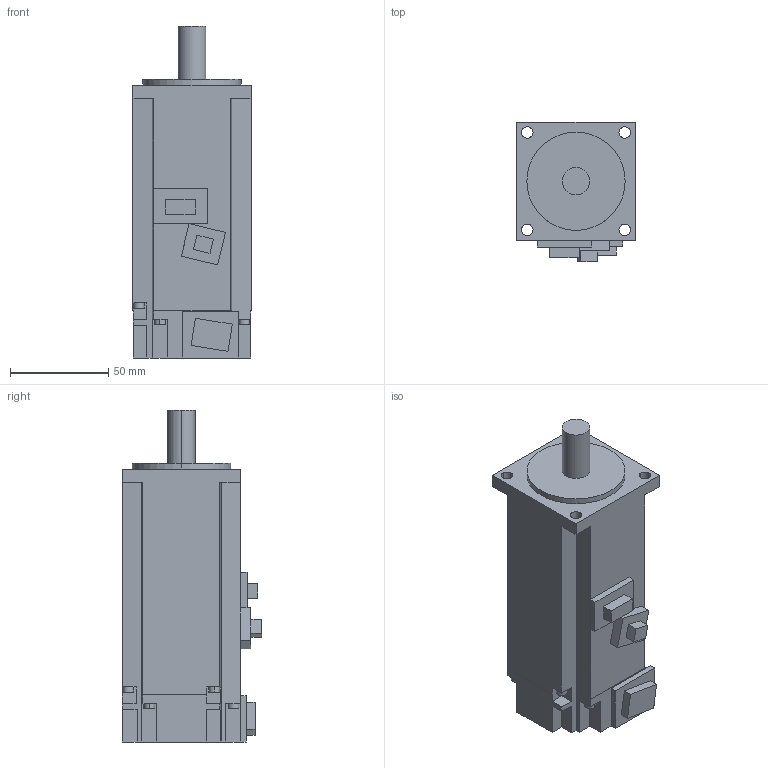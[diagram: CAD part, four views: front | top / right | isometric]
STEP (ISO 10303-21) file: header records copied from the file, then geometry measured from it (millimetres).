
FILE_DESCRIPTION((''),'2;1');
FILE_NAME('HF-KN43B_B_IF0001','2010-04-03T',('DD65885'),(''),'PRO/ENGINEER BY PARAMETRIC TECHNOLOGY CORPORATION, 2007390','PRO/ENGINEER BY PARAMETRIC TECHNOLOGY CORPORATION, 2007390','');
FILE_SCHEMA(('CONFIG_CONTROL_DESIGN'));
Length unit declared in the file: millimetre
Products named in the file (1): HF-KN43B_B_IF0001
Bounding box: 60 x 70.8 x 168.8 mm (x, y, z)
Volume: 454771 mm3; surface area: 44365.9 mm2
Topology: 1 solids, 1 shells, 128 faces, 338 edges, 224 vertices
Faces by surface type: plane 102, cylinder 26
Entity records: 3976 total; most frequent: CARTESIAN_POINT 690, ORIENTED_EDGE 676, DIRECTION 646, EDGE_CURVE 338, VECTOR 286, LINE 286, VERTEX_POINT 224, AXIS2_PLACEMENT_3D 180
